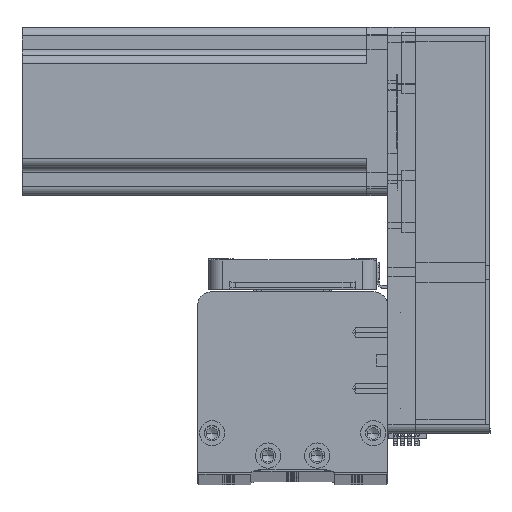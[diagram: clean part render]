
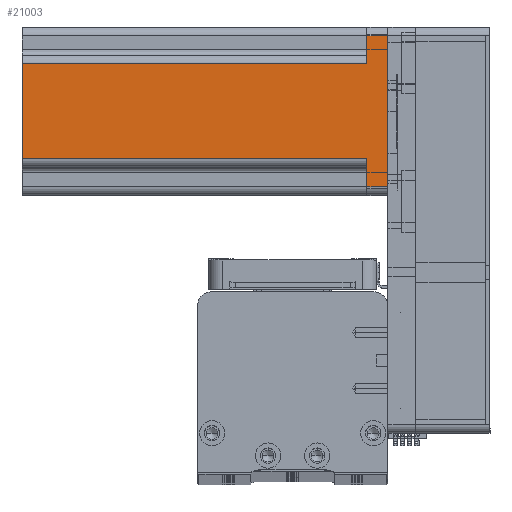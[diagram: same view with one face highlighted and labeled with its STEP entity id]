
A CAD part, top view. The second image highlights one B-rep face of the part: STEP entity #21003.
In plain terms, the highlighted planar face has unit normal (0, 0, 1) as drawn and (0, -1, 0) by its records, which use the part's own axes.
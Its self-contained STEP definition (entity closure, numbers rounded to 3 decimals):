
#1080 = VECTOR ( 'NONE', #18565, 1000. ) ;
#2744 = VERTEX_POINT ( 'NONE', #5990 ) ;
#3343 = ORIENTED_EDGE ( 'NONE', *, *, #14680, .T. ) ;
#4199 = VERTEX_POINT ( 'NONE', #26654 ) ;
#4351 = EDGE_CURVE ( 'NONE', #14707, #4199, #40403, .T. ) ;
#4427 = DIRECTION ( 'NONE',  ( 0., 0., -1. ) ) ;
#4644 = CARTESIAN_POINT ( 'NONE',  ( 30., -30., 0. ) ) ;
#4754 = DIRECTION ( 'NONE',  ( 1., 0., 0. ) ) ;
#5990 = CARTESIAN_POINT ( 'NONE',  ( 27., -30., 7.5 ) ) ;
#10362 = DIRECTION ( 'NONE',  ( 0., 1., 0. ) ) ;
#10694 = LINE ( 'NONE', #57828, #55486 ) ;
#12179 = DIRECTION ( 'NONE',  ( -1., 0., 0. ) ) ;
#13026 = LINE ( 'NONE', #36331, #1080 ) ;
#14680 = EDGE_CURVE ( 'NONE', #41390, #2744, #27198, .T. ) ;
#14707 = VERTEX_POINT ( 'NONE', #34410 ) ;
#14719 = CARTESIAN_POINT ( 'NONE',  ( -27., -30., 0. ) ) ;
#15679 = VERTEX_POINT ( 'NONE', #16100 ) ;
#16100 = CARTESIAN_POINT ( 'NONE',  ( 17., -30., 7.5 ) ) ;
#16339 = EDGE_CURVE ( 'NONE', #2744, #15679, #33151, .T. ) ;
#18170 = CARTESIAN_POINT ( 'NONE',  ( 17., -30., 130.7 ) ) ;
#18210 = VERTEX_POINT ( 'NONE', #18170 ) ;
#18565 = DIRECTION ( 'NONE',  ( 0., 0., 1. ) ) ;
#19140 = PLANE ( 'NONE',  #37766 ) ;
#20493 = VERTEX_POINT ( 'NONE', #14719 ) ;
#21003 = ADVANCED_FACE ( 'NONE', ( #27785 ), #19140, .F. ) ;
#21419 = VECTOR ( 'NONE', #35852, 1000. ) ;
#25278 = ORIENTED_EDGE ( 'NONE', *, *, #35091, .T. ) ;
#25962 = EDGE_CURVE ( 'NONE', #20493, #41390, #45222, .T. ) ;
#26562 = EDGE_LOOP ( 'NONE', ( #38888, #56629, #54532, #25278, #38189, #3343, #41079, #29161 ) ) ;
#26654 = CARTESIAN_POINT ( 'NONE',  ( -17., -30., 7.5 ) ) ;
#26776 = VECTOR ( 'NONE', #4754, 1000. ) ;
#27198 = LINE ( 'NONE', #51874, #49632 ) ;
#27785 = FACE_OUTER_BOUND ( 'NONE', #26562, .T. ) ;
#27976 = DIRECTION ( 'NONE',  ( 1., 0., 0. ) ) ;
#29161 = ORIENTED_EDGE ( 'NONE', *, *, #53216, .T. ) ;
#31512 = CARTESIAN_POINT ( 'NONE',  ( 30., -30., 130.7 ) ) ;
#33151 = LINE ( 'NONE', #43383, #57022 ) ;
#34410 = CARTESIAN_POINT ( 'NONE',  ( -27., -30., 7.5 ) ) ;
#34514 = EDGE_CURVE ( 'NONE', #52117, #4199, #10694, .T. ) ;
#35091 = EDGE_CURVE ( 'NONE', #14707, #20493, #36417, .T. ) ;
#35847 = LINE ( 'NONE', #31512, #26776 ) ;
#35852 = DIRECTION ( 'NONE',  ( 1., 0., 0. ) ) ;
#36331 = CARTESIAN_POINT ( 'NONE',  ( 17., -30., 130.7 ) ) ;
#36417 = LINE ( 'NONE', #39962, #48363 ) ;
#36785 = CARTESIAN_POINT ( 'NONE',  ( -20., -30., 7.5 ) ) ;
#37099 = CARTESIAN_POINT ( 'NONE',  ( 30., -30., 130.7 ) ) ;
#37428 = EDGE_CURVE ( 'NONE', #52117, #18210, #35847, .T. ) ;
#37766 = AXIS2_PLACEMENT_3D ( 'NONE', #37099, #10362, #41591 ) ;
#38189 = ORIENTED_EDGE ( 'NONE', *, *, #25962, .T. ) ;
#38888 = ORIENTED_EDGE ( 'NONE', *, *, #37428, .F. ) ;
#38959 = VECTOR ( 'NONE', #27976, 1000. ) ;
#39962 = CARTESIAN_POINT ( 'NONE',  ( -27., -30., 130.7 ) ) ;
#40403 = LINE ( 'NONE', #36785, #38959 ) ;
#40583 = CARTESIAN_POINT ( 'NONE',  ( -17., -30., 130.7 ) ) ;
#41079 = ORIENTED_EDGE ( 'NONE', *, *, #16339, .T. ) ;
#41390 = VERTEX_POINT ( 'NONE', #42145 ) ;
#41591 = DIRECTION ( 'NONE',  ( -1., 0., 0. ) ) ;
#42145 = CARTESIAN_POINT ( 'NONE',  ( 27., -30., 0. ) ) ;
#43383 = CARTESIAN_POINT ( 'NONE',  ( 20., -30., 7.5 ) ) ;
#45222 = LINE ( 'NONE', #4644, #21419 ) ;
#48363 = VECTOR ( 'NONE', #4427, 1000. ) ;
#48829 = DIRECTION ( 'NONE',  ( 0., 0., -1. ) ) ;
#49632 = VECTOR ( 'NONE', #56382, 1000. ) ;
#51874 = CARTESIAN_POINT ( 'NONE',  ( 27., -30., 130.7 ) ) ;
#52117 = VERTEX_POINT ( 'NONE', #40583 ) ;
#53216 = EDGE_CURVE ( 'NONE', #15679, #18210, #13026, .T. ) ;
#54532 = ORIENTED_EDGE ( 'NONE', *, *, #4351, .F. ) ;
#55486 = VECTOR ( 'NONE', #48829, 1000. ) ;
#56382 = DIRECTION ( 'NONE',  ( 0., 0., 1. ) ) ;
#56629 = ORIENTED_EDGE ( 'NONE', *, *, #34514, .T. ) ;
#57022 = VECTOR ( 'NONE', #12179, 1000. ) ;
#57828 = CARTESIAN_POINT ( 'NONE',  ( -17., -30., 130.7 ) ) ;
